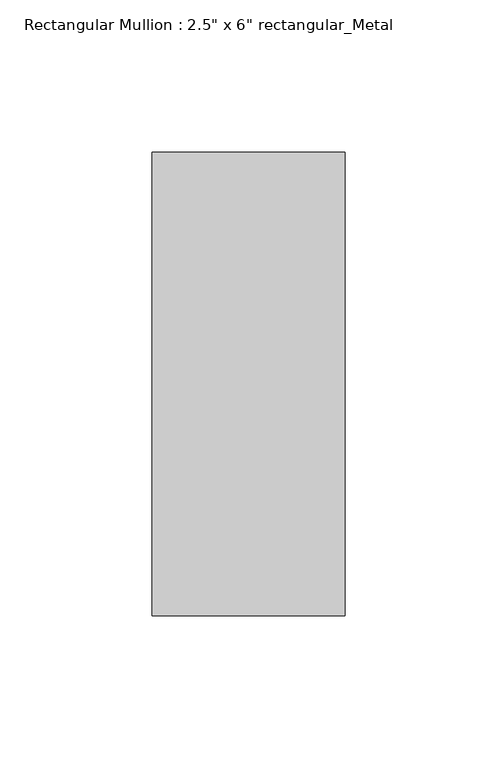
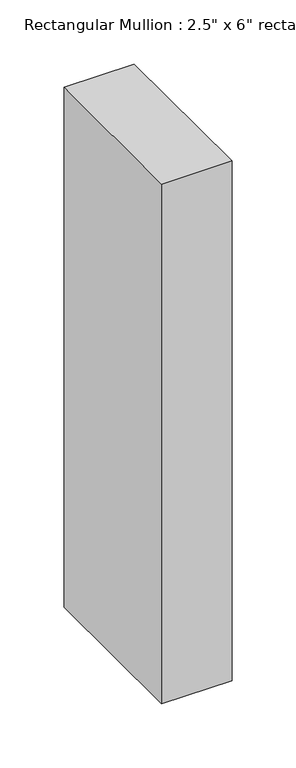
"""IFC4 building model written with IfcOpenShell, lengths in millimetres: member geometry."""

from ifc_helpers import new_model, si_unit, frame, origin, place, context, project, spatial, polyline, outline, extrude, source, transform, mapped, element, save


def member_a39458f7(model_context):
    return source(origin(), model_context, "Body", "SweptSolid", [
        extrude(outline(polyline([(0.0, 76.2), (0.0, -76.2), (-63.5, -76.2), (-63.5, 76.2), (0.0, 76.2)])), frame((0.0, 0.0, -495.3), z_axis=(0.0, 0.0, 1.0), x_axis=(1.0, 0.0, 0.0)), (0.0, 0.0, 1.0), 495.3),
    ])


if __name__ == "__main__":
    model = new_model("IFC4")
    model_context = context("Model", 3, world=origin())
    ifc_project = project(units=[si_unit("LENGTHUNIT", "METRE", prefix="MILLI")], contexts=[model_context])
    site = spatial("IfcSite", under=ifc_project)
    building = spatial("IfcBuilding", under=site)
    placement = place(None, origin())
    member_shape = member_a39458f7(model_context)
    element("IfcMember", 1, ObjectType="Rectangular Mullion : 2.5\" x 6\" rectangular_Metal", at=placement, inside=building, context=model_context, shape_type="MappedRepresentation", body=[
        mapped(member_shape, transform((0.0, 0.0, 0.0), x_axis=(1.0, 0.0, 0.0), y_axis=(0.0, 1.0, 0.0), z_axis=(0.0, 0.0, 1.0))),
    ])
    save(model, "model.ifc")
